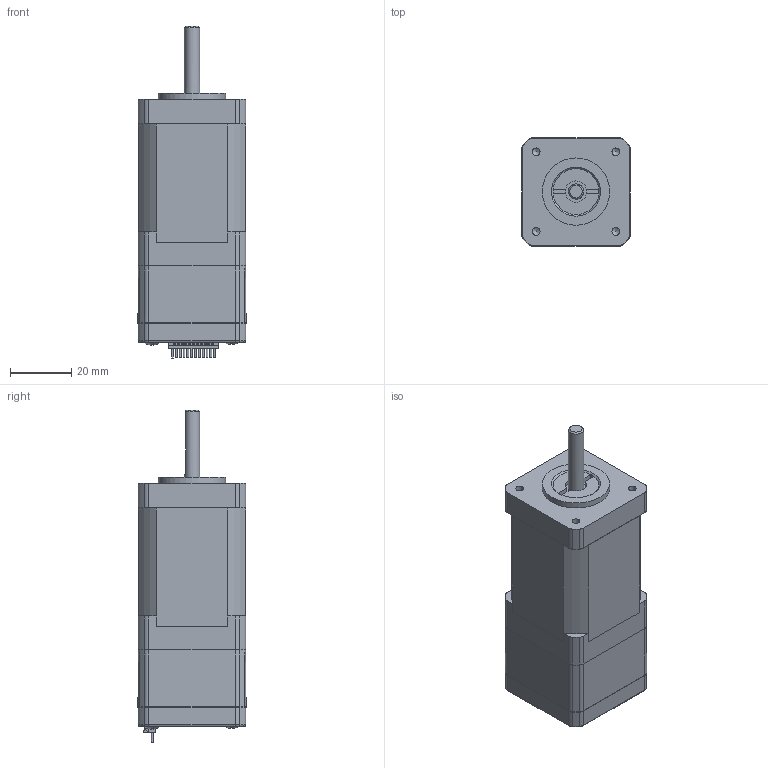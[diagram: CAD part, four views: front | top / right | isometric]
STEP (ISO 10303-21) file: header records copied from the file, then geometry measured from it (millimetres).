
FILE_DESCRIPTION (( 'STEP AP214' ), '1' );
FILE_NAME ('IM35ET(C)040-(P).STEP', '2024-11-16T03:34:17', ( '' ), ( '' ), 'SwSTEP 2.0', 'SolidWorks 2023', '' );
FILE_SCHEMA (( 'AUTOMOTIVE_DESIGN' ));
Length unit declared in the file: millimetre
Products named in the file (3): IM35驱动器; IM35ET(C)040-(P); IM35电机_装配体用
Assembly tree (2 placements, depth 2):
  IM35ET(C)040-(P)
    IM35电机_装配体用
    IM35驱动器
Bounding box: 35.32 x 35.32 x 108.42 mm (x, y, z)
Volume: 82743.1 mm3; surface area: 28065.7 mm2
Topology: 2 solids, 4 shells, 1750 faces, 5039 edges, 3285 vertices
Faces by surface type: plane 1322, cylinder 289, cone 57, bspline 45, torus 33, sphere 4
Full cylindrical faces by diameter (mm): 0.5 x1, 0.6 x17, 0.65 x2, 0.75 x1, 0.8 x2, 1.1 x4, 1.58 x2, 2.5 x4, 3 x3, 3.1 x2, 3.2 x4, 5 x2, 5.3 x2, 5.5 x2, 5.6 x4, 6 x2, 8 x1, 10.165 x1, 22 x2
Entity records: 77320 total; most frequent: CARTESIAN_POINT 14080, ORIENTED_EDGE 9862, DIRECTION 8489, EDGE_CURVE 4931, VECTOR 3725, LINE 3725, VERTEX_POINT 3257, AXIS2_PLACEMENT_3D 2382
